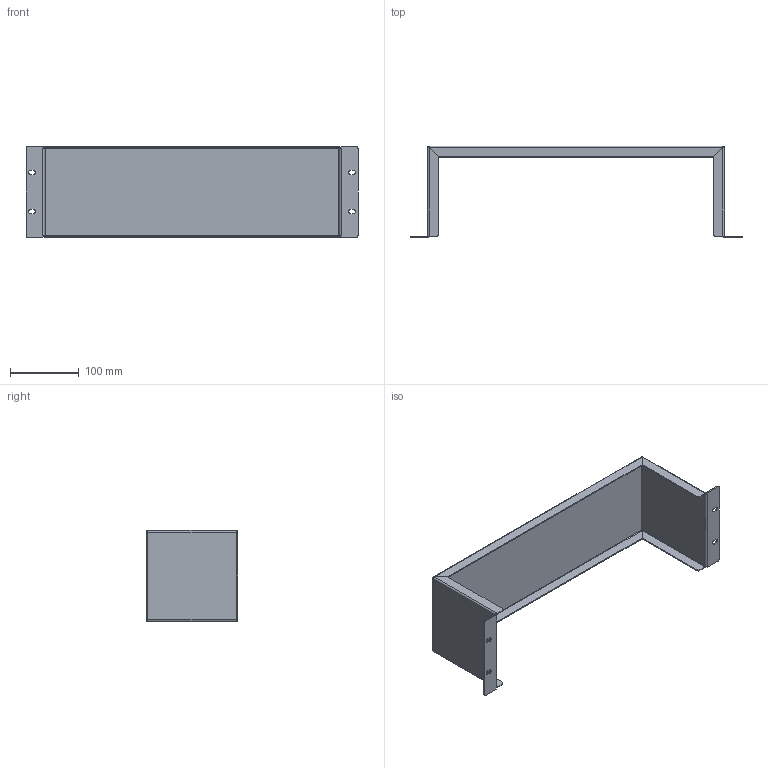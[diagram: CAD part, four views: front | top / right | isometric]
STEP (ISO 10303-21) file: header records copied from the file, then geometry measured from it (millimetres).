
FILE_DESCRIPTION(/* description */ ('Unknown'),/* implementation_level */ '2;1');
FILE_NAME(/* name */ '7-525D',/* time_stamp */ '2022-07-22T11:38:05-04:00',/* author */ ('Unknown'),/* organization */ ('Unknown'),/* preprocessor_version */ 'ST-DEVELOPER v18.1',/* originating_system */ 'Solid Edge',/* authorisation */ 'Unknown');
FILE_SCHEMA (('AUTOMOTIVE_DESIGN {1 0 10303 214 3 1 1}'));
Length unit declared in the file: millimetre
Products named in the file (1): 7-525D
Bounding box: 482.6 x 133.35 x 132.54 mm (x, y, z)
Volume: 188735.3 mm3; surface area: 235415.8 mm2
Topology: 1 solids, 1 shells, 122 faces, 280 edges, 160 vertices
Faces by surface type: plane 74, cylinder 36, bspline 8, cone 4
Entity records: 3698 total; most frequent: CARTESIAN_POINT 967, ORIENTED_EDGE 552, DIRECTION 538, EDGE_CURVE 276, LINE 196, VECTOR 196, AXIS2_PLACEMENT_3D 171, VERTEX_POINT 160
